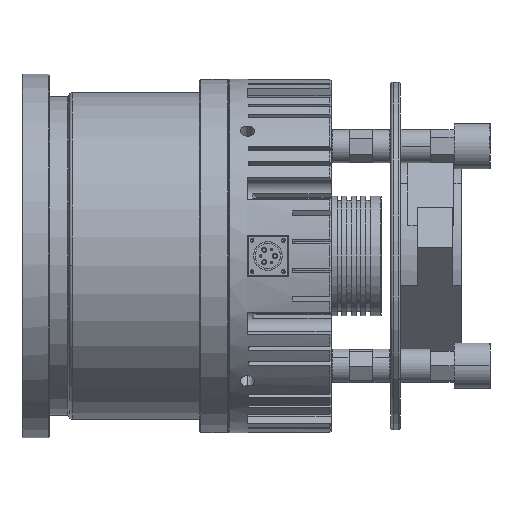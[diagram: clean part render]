
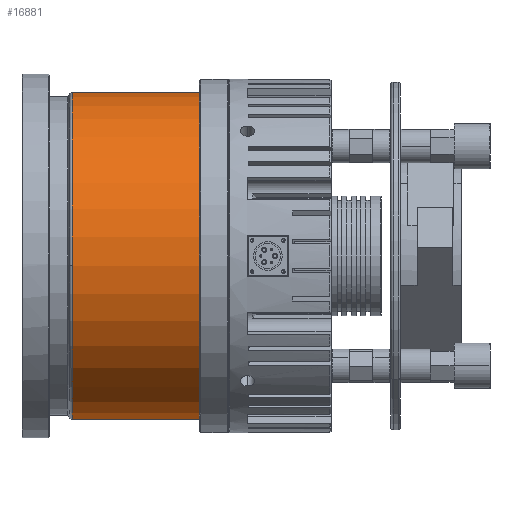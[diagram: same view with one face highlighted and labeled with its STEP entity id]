
A CAD part, left-side view. The second image highlights one B-rep face of the part: STEP entity #16881.
In plain terms, the highlighted cylindrical face has radius 137 mm (diameter 274 mm), a partial arc.
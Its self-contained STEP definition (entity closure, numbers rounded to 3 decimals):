
#1610 = CIRCLE ( 'NONE', #44004, 137. ) ;
#1966 = DIRECTION ( 'NONE',  ( 0., 0., 1. ) ) ;
#2018 = DIRECTION ( 'NONE',  ( 0., -1., 0. ) ) ;
#2030 = CARTESIAN_POINT ( 'NONE',  ( 0., 112.381, 0. ) ) ;
#4148 = EDGE_CURVE ( 'NONE', #25561, #27724, #41310, .T. ) ;
#6855 = DIRECTION ( 'NONE',  ( 0., 0., 1. ) ) ;
#6865 = DIRECTION ( 'NONE',  ( 0., -1., 0. ) ) ;
#6929 = CARTESIAN_POINT ( 'NONE',  ( 0., 112.381, 0. ) ) ;
#7797 = AXIS2_PLACEMENT_3D ( 'NONE', #17225, #17166, #17155 ) ;
#8598 = CARTESIAN_POINT ( 'NONE',  ( 137., 112.381, 0. ) ) ;
#10272 = EDGE_CURVE ( 'NONE', #27061, #25561, #21619, .T. ) ;
#13322 = ORIENTED_EDGE ( 'NONE', *, *, #22900, .T. ) ;
#16373 = AXIS2_PLACEMENT_3D ( 'NONE', #58985, #58736, #58919 ) ;
#16881 = ADVANCED_FACE ( 'NONE', ( #51440 ), #52750, .T. ) ;
#17155 = DIRECTION ( 'NONE',  ( 0., 0., 1. ) ) ;
#17166 = DIRECTION ( 'NONE',  ( 0., 1., 0. ) ) ;
#17225 = CARTESIAN_POINT ( 'NONE',  ( 0., 1., 0. ) ) ;
#21619 = LINE ( 'NONE', #50871, #23090 ) ;
#22900 = EDGE_CURVE ( 'NONE', #35429, #27061, #31885, .T. ) ;
#23090 = VECTOR ( 'NONE', #50799, 1000. ) ;
#25561 = VERTEX_POINT ( 'NONE', #48264 ) ;
#27061 = VERTEX_POINT ( 'NONE', #31292 ) ;
#27724 = VERTEX_POINT ( 'NONE', #8598 ) ;
#30168 = EDGE_CURVE ( 'NONE', #35429, #37635, #44452, .T. ) ;
#30797 = ORIENTED_EDGE ( 'NONE', *, *, #4148, .T. ) ;
#31292 = CARTESIAN_POINT ( 'NONE',  ( 0., 1., -137. ) ) ;
#31885 = CIRCLE ( 'NONE', #7797, 137. ) ;
#34823 = AXIS2_PLACEMENT_3D ( 'NONE', #6929, #6865, #6855 ) ;
#35429 = VERTEX_POINT ( 'NONE', #40635 ) ;
#37635 = VERTEX_POINT ( 'NONE', #56394 ) ;
#39574 = EDGE_CURVE ( 'NONE', #27724, #37635, #1610, .T. ) ;
#40635 = CARTESIAN_POINT ( 'NONE',  ( 0., 1., 137. ) ) ;
#41310 = CIRCLE ( 'NONE', #34823, 137. ) ;
#44004 = AXIS2_PLACEMENT_3D ( 'NONE', #2030, #2018, #1966 ) ;
#44452 = LINE ( 'NONE', #54877, #47465 ) ;
#47465 = VECTOR ( 'NONE', #55848, 1000. ) ;
#48264 = CARTESIAN_POINT ( 'NONE',  ( 0., 112.381, -137. ) ) ;
#48428 = EDGE_LOOP ( 'NONE', ( #13322, #57005, #30797, #49943, #48740 ) ) ;
#48740 = ORIENTED_EDGE ( 'NONE', *, *, #30168, .F. ) ;
#49943 = ORIENTED_EDGE ( 'NONE', *, *, #39574, .T. ) ;
#50799 = DIRECTION ( 'NONE',  ( 0., 1., 0. ) ) ;
#50871 = CARTESIAN_POINT ( 'NONE',  ( 0., 198.318, -137. ) ) ;
#51440 = FACE_OUTER_BOUND ( 'NONE', #48428, .T. ) ;
#52750 = CYLINDRICAL_SURFACE ( 'NONE', #16373, 137. ) ;
#54877 = CARTESIAN_POINT ( 'NONE',  ( 0., 198.318, 137. ) ) ;
#55848 = DIRECTION ( 'NONE',  ( 0., 1., 0. ) ) ;
#56394 = CARTESIAN_POINT ( 'NONE',  ( 0., 112.381, 137. ) ) ;
#57005 = ORIENTED_EDGE ( 'NONE', *, *, #10272, .T. ) ;
#58736 = DIRECTION ( 'NONE',  ( 0., 1., 0. ) ) ;
#58919 = DIRECTION ( 'NONE',  ( 0., 0., 1. ) ) ;
#58985 = CARTESIAN_POINT ( 'NONE',  ( 0., 198.318, 0. ) ) ;
